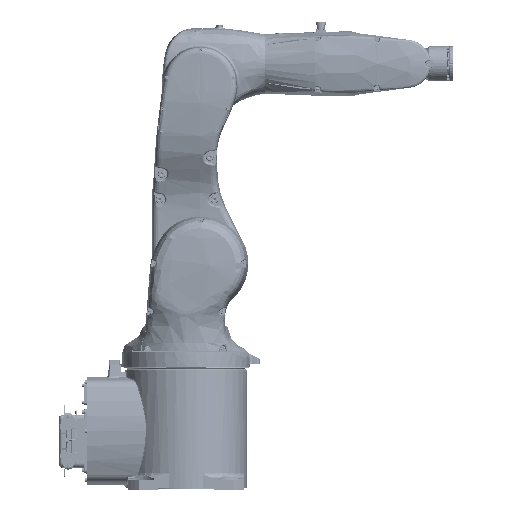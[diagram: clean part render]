
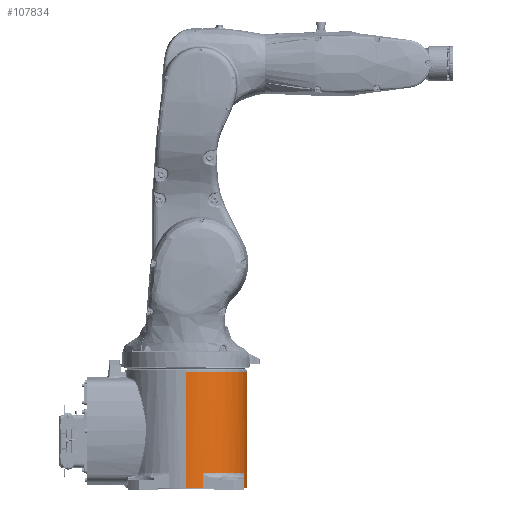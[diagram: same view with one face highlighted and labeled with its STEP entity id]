
A CAD part, top view. The second image highlights one B-rep face of the part: STEP entity #107834.
In plain terms, the highlighted cylindrical face has radius 107 mm (diameter 214 mm), a partial arc.
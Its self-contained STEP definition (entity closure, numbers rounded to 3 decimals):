
#73084 = EDGE_LOOP ( 'NONE', ( #243905, #243910, #243919, #243925, #243934, #243941, #243950, #243957, #243965, #243973, #243980, #243987 ) ) ;
#93267 = CIRCLE ( 'NONE', #93290, 107. ) ;
#93279 = VECTOR ( 'NONE', #110776, 1000. ) ;
#93290 = AXIS2_PLACEMENT_3D ( 'NONE', #110762, #110764, #110766 ) ;
#93299 = VECTOR ( 'NONE', #110804, 1000. ) ;
#93302 = CIRCLE ( 'NONE', #93313, 107. ) ;
#93313 = AXIS2_PLACEMENT_3D ( 'NONE', #110791, #110793, #110795 ) ;
#93319 = VECTOR ( 'NONE', #110826, 1000. ) ;
#93322 = CIRCLE ( 'NONE', #93330, 107. ) ;
#93330 = AXIS2_PLACEMENT_3D ( 'NONE', #110815, #110817, #110819 ) ;
#93339 = CIRCLE ( 'NONE', #93350, 107. ) ;
#93350 = AXIS2_PLACEMENT_3D ( 'NONE', #110840, #110841, #110843 ) ;
#93353 = VECTOR ( 'NONE', #110852, 1000. ) ;
#93359 = CIRCLE ( 'NONE', #93367, 107. ) ;
#93367 = AXIS2_PLACEMENT_3D ( 'NONE', #110864, #110866, #110868 ) ;
#93370 = VECTOR ( 'NONE', #110877, 1000. ) ;
#107834 = ADVANCED_FACE ( 'NONE', ( #115934 ), #115949, .T. ) ;
#110759 = CARTESIAN_POINT ( 'NONE',  ( 0., 287.227, -107. ) ) ;
#110762 = CARTESIAN_POINT ( 'NONE',  ( 0., 3., 0. ) ) ;
#110764 = DIRECTION ( 'NONE',  ( 0., -1., 0. ) ) ;
#110766 = DIRECTION ( 'NONE',  ( 0., 0., -1. ) ) ;
#110768 = LINE ( 'NONE', #110759, #93279 ) ;
#110776 = DIRECTION ( 'NONE',  ( 0., 1., 0. ) ) ;
#110790 = LINE ( 'NONE', #110800, #93299 ) ;
#110791 = CARTESIAN_POINT ( 'NONE',  ( 0., 209., 0. ) ) ;
#110793 = DIRECTION ( 'NONE',  ( 0., 1., 0. ) ) ;
#110795 = DIRECTION ( 'NONE',  ( 0., 0., 1. ) ) ;
#110800 = CARTESIAN_POINT ( 'NONE',  ( 0., 287.227, 107. ) ) ;
#110804 = DIRECTION ( 'NONE',  ( 0., 1., 0. ) ) ;
#110813 = LINE ( 'NONE', #110823, #93319 ) ;
#110815 = CARTESIAN_POINT ( 'NONE',  ( 0., 3., 0. ) ) ;
#110817 = DIRECTION ( 'NONE',  ( 0., -1., 0. ) ) ;
#110819 = DIRECTION ( 'NONE',  ( 0., 0., -1. ) ) ;
#110823 = CARTESIAN_POINT ( 'NONE',  ( 30.704, 20., 102.5 ) ) ;
#110826 = DIRECTION ( 'NONE',  ( 0., -1., 0. ) ) ;
#110840 = CARTESIAN_POINT ( 'NONE',  ( 0., 30., 0. ) ) ;
#110841 = DIRECTION ( 'NONE',  ( 0., 1., 0. ) ) ;
#110843 = DIRECTION ( 'NONE',  ( 0., 0., -1. ) ) ;
#110847 = LINE ( 'NONE', #110850, #93353 ) ;
#110850 = CARTESIAN_POINT ( 'NONE',  ( 102.5, 20., 30.704 ) ) ;
#110852 = DIRECTION ( 'NONE',  ( 0., -1., 0. ) ) ;
#110860 = LINE ( 'NONE', #110863, #93370 ) ;
#110863 = CARTESIAN_POINT ( 'NONE',  ( 102.5, 20., -30.704 ) ) ;
#110864 = CARTESIAN_POINT ( 'NONE',  ( 0., 3., 0. ) ) ;
#110866 = DIRECTION ( 'NONE',  ( 0., -1., 0. ) ) ;
#110868 = DIRECTION ( 'NONE',  ( 0., 0., -1. ) ) ;
#110877 = DIRECTION ( 'NONE',  ( 0., -1., 0. ) ) ;
#110887 = LINE ( 'NONE', #110889, #122803 ) ;
#110889 = CARTESIAN_POINT ( 'NONE',  ( 30.704, 20., -102.5 ) ) ;
#110891 = CARTESIAN_POINT ( 'NONE',  ( 0., 30., 0. ) ) ;
#110892 = DIRECTION ( 'NONE',  ( 0., 1., 0. ) ) ;
#110894 = DIRECTION ( 'NONE',  ( 0., 0., -1. ) ) ;
#110906 = DIRECTION ( 'NONE',  ( 0., -1., 0. ) ) ;
#115920 = DIRECTION ( 'NONE',  ( 0., 1., 0. ) ) ;
#115934 = FACE_OUTER_BOUND ( 'NONE', #73084, .T. ) ;
#115939 = CARTESIAN_POINT ( 'NONE',  ( 0., 287.227, 0. ) ) ;
#115949 = CYLINDRICAL_SURFACE ( 'NONE', #194033, 107. ) ;
#115954 = DIRECTION ( 'NONE',  ( 0., 0., 1. ) ) ;
#122793 = CIRCLE ( 'NONE', #122798, 107. ) ;
#122798 = AXIS2_PLACEMENT_3D ( 'NONE', #110891, #110892, #110894 ) ;
#122803 = VECTOR ( 'NONE', #110906, 1000. ) ;
#194033 = AXIS2_PLACEMENT_3D ( 'NONE', #115939, #115920, #115954 ) ;
#243905 = ORIENTED_EDGE ( 'NONE', *, *, #513233, .F. ) ;
#243910 = ORIENTED_EDGE ( 'NONE', *, *, #513239, .T. ) ;
#243919 = ORIENTED_EDGE ( 'NONE', *, *, #513245, .F. ) ;
#243925 = ORIENTED_EDGE ( 'NONE', *, *, #513251, .F. ) ;
#243934 = ORIENTED_EDGE ( 'NONE', *, *, #513256, .F. ) ;
#243941 = ORIENTED_EDGE ( 'NONE', *, *, #513262, .F. ) ;
#243950 = ORIENTED_EDGE ( 'NONE', *, *, #513268, .T. ) ;
#243957 = ORIENTED_EDGE ( 'NONE', *, *, #513274, .T. ) ;
#243965 = ORIENTED_EDGE ( 'NONE', *, *, #513280, .F. ) ;
#243973 = ORIENTED_EDGE ( 'NONE', *, *, #513285, .F. ) ;
#243980 = ORIENTED_EDGE ( 'NONE', *, *, #513291, .T. ) ;
#243987 = ORIENTED_EDGE ( 'NONE', *, *, #513297, .T. ) ;
#274139 = VERTEX_POINT ( 'NONE', #344214 ) ;
#274176 = VERTEX_POINT ( 'NONE', #344229 ) ;
#274440 = VERTEX_POINT ( 'NONE', #344338 ) ;
#274446 = VERTEX_POINT ( 'NONE', #344340 ) ;
#274463 = VERTEX_POINT ( 'NONE', #344348 ) ;
#274469 = VERTEX_POINT ( 'NONE', #344350 ) ;
#274475 = VERTEX_POINT ( 'NONE', #344353 ) ;
#274495 = VERTEX_POINT ( 'NONE', #344360 ) ;
#274501 = VERTEX_POINT ( 'NONE', #344363 ) ;
#274508 = VERTEX_POINT ( 'NONE', #344365 ) ;
#274515 = VERTEX_POINT ( 'NONE', #344368 ) ;
#274534 = VERTEX_POINT ( 'NONE', #344375 ) ;
#344214 = CARTESIAN_POINT ( 'NONE',  ( 0., 3., 107. ) ) ;
#344229 = CARTESIAN_POINT ( 'NONE',  ( 30.704, 30., 102.5 ) ) ;
#344338 = CARTESIAN_POINT ( 'NONE',  ( 0., 3., -107. ) ) ;
#344340 = CARTESIAN_POINT ( 'NONE',  ( 30.704, 3., -102.5 ) ) ;
#344348 = CARTESIAN_POINT ( 'NONE',  ( 30.704, 3., 102.5 ) ) ;
#344350 = CARTESIAN_POINT ( 'NONE',  ( 0., 209., 107. ) ) ;
#344353 = CARTESIAN_POINT ( 'NONE',  ( 0., 209., -107. ) ) ;
#344360 = CARTESIAN_POINT ( 'NONE',  ( 102.5, 3., -30.704 ) ) ;
#344363 = CARTESIAN_POINT ( 'NONE',  ( 102.5, 30., -30.704 ) ) ;
#344365 = CARTESIAN_POINT ( 'NONE',  ( 102.5, 30., 30.704 ) ) ;
#344368 = CARTESIAN_POINT ( 'NONE',  ( 102.5, 3., 30.704 ) ) ;
#344375 = CARTESIAN_POINT ( 'NONE',  ( 30.704, 30., -102.5 ) ) ;
#513233 = EDGE_CURVE ( 'NONE', #274440, #274446, #93267, .T. ) ;
#513239 = EDGE_CURVE ( 'NONE', #274440, #274475, #110768, .T. ) ;
#513245 = EDGE_CURVE ( 'NONE', #274469, #274475, #93302, .T. ) ;
#513251 = EDGE_CURVE ( 'NONE', #274139, #274469, #110790, .T. ) ;
#513256 = EDGE_CURVE ( 'NONE', #274463, #274139, #93322, .T. ) ;
#513262 = EDGE_CURVE ( 'NONE', #274176, #274463, #110813, .T. ) ;
#513268 = EDGE_CURVE ( 'NONE', #274176, #274508, #93339, .T. ) ;
#513274 = EDGE_CURVE ( 'NONE', #274508, #274515, #110847, .T. ) ;
#513280 = EDGE_CURVE ( 'NONE', #274495, #274515, #93359, .T. ) ;
#513285 = EDGE_CURVE ( 'NONE', #274501, #274495, #110860, .T. ) ;
#513291 = EDGE_CURVE ( 'NONE', #274501, #274534, #122793, .T. ) ;
#513297 = EDGE_CURVE ( 'NONE', #274534, #274446, #110887, .T. ) ;
